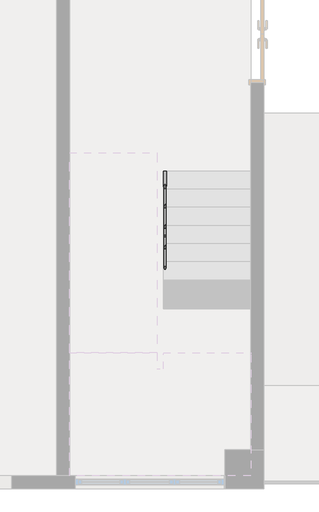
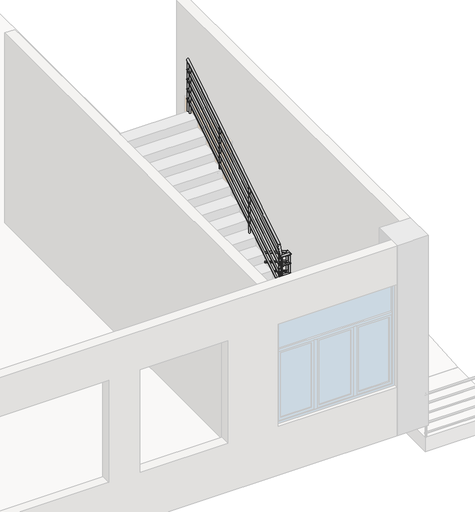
# One storey, part 4 of 5: 1 railing.
"""IFC4 building model written with IfcOpenShell, lengths in millimetres."""

from ifc_helpers import new_model, si_unit, point, frame, frame_2d, origin, place, context, project, spatial, circle_curve, ellipse_curve, trimmed, segment, composite_curve, outline, extrude, element, save
from ifc_brep_helpers import plane_surface, cylinder_surface, advanced_brep

model = new_model("IFC4")

# Units and contexts
model_context = context("Model", 3, world=origin())
ifc_project = project(units=[si_unit("LENGTHUNIT", "METRE", prefix="MILLI")], contexts=[model_context])

# Site, building, storey
site = spatial("IfcSite", under=ifc_project)
building = spatial("IfcBuilding", under=site)
storey = spatial("IfcBuildingStorey", under=building, Name="标高 3", Elevation=3200.0)

# Railing
placement = place(None, origin())
element("IfcRailing", 1, ObjectType="900mm 圆管", at=placement, inside=storey, context=model_context, shape_type="SolidModel", body=[
    advanced_brep(
    [(12373.6324742, -5636.6725016, 4253.6013354), (12413.6324742, -5636.6725016, 4253.6013354), (12373.6324742, -8442.4714181, 6030.0), (12413.6324742, -8442.4714181, 6030.0), (12373.6324742, -8492.8994811, 6030.0), (12413.6324742, -8534.3206936, 6030.0), (12232.6298261, -8487.9755601, 6030.0), (12216.4524444, -8527.4350152, 6030.0)],
    [
        (0, 1, ellipse_curve(frame((12393.6324742, -5636.6725016, 4253.6013354), z_axis=(0.0, 1.0, 0.0), x_axis=(0.0, 0.0, -1.0)), 23.6713919, 20.0)),
        (1, 0, ellipse_curve(frame((12393.6324742, -5636.6725016, 4253.6013354), z_axis=(0.0, 1.0, 0.0), x_axis=(0.0, 0.0, -1.0)), 23.6713919, 20.0)),
        (0, 2),
        (2, 3, ellipse_curve(frame((12393.6324742, -8442.4714181, 6030.0), z_axis=(0.0, 0.9604430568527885, -0.2784764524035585), x_axis=(0.0, -0.2784764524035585, -0.9604430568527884)), 20.8237228, 20.0)),
        (3, 1),
        (3, 2, ellipse_curve(frame((12393.6324742, -8442.4714181, 6030.0), z_axis=(0.0, 0.9604430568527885, -0.2784764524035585), x_axis=(0.0, -0.2784764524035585, -0.9604430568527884)), 20.8237228, 20.0)),
        (2, 4),
        (4, 5, ellipse_curve(frame((12393.6324742, -8513.6100873, 6030.0), z_axis=(0.7193398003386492, 0.6946583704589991, 0.0), x_axis=(-0.694658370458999, 0.7193398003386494, 0.0)), 28.7911308, 20.0)),
        (5, 3),
        (5, 4, ellipse_curve(frame((12393.6324742, -8513.6100873, 6030.0), z_axis=(0.7193398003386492, 0.6946583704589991, 0.0), x_axis=(-0.694658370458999, 0.7193398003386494, 0.0)), 28.7911308, 20.0)),
        (6, 7, ellipse_curve(frame((12224.5411352, -8507.7052877, 6030.0), z_axis=(-0.7020987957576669, 0.28784280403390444, 0.6513092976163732), x_axis=(0.7113439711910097, 0.24195173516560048, 0.659885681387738)), 28.1010702, 20.0)),
        (7, 6, ellipse_curve(frame((12224.5411352, -8507.7052877, 6030.0), z_axis=(-0.7020987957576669, 0.28784280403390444, 0.6513092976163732), x_axis=(0.7113439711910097, 0.24195173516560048, 0.659885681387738)), 28.1010702, 20.0)),
        (4, 6),
        (7, 5),
    ],
    [
        plane_surface(frame((12393.6324742, -5636.6725016, 4277.2727273), z_axis=(0.0, 1.0, 0.0), x_axis=(0.0, 0.0, -1.0))),
        cylinder_surface(frame((12393.6324742, -5647.3709326, 4260.3746927), z_axis=(0.0, 0.8449017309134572, -0.5349215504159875), x_axis=(1.0, 0.0, 0.0)), 20.0),
        cylinder_surface(frame((12393.6324742, -8436.6725016, 6030.0), z_axis=(0.0, 1.0, 0.0), x_axis=(1.0, 0.0, 0.0)), 20.0),
        plane_surface(frame((12242.8324742, -8508.3440353, 6050.0), z_axis=(-0.702098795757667, 0.2878428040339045, 0.6513092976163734), x_axis=(0.7120795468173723, 0.2838083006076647, 0.6421803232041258))),
        cylinder_surface(frame((12393.6324742, -8513.6100873, 6030.0), z_axis=(0.999390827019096, -0.034899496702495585, 0.0), x_axis=(-0.034899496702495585, -0.999390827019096, 0.0)), 20.0),
    ],
    [
        (0, [[1, 2]]),
        (1, [[-1, 3, 4, 5]]),
        (1, [[-2, -5, 6, -3]]),
        (2, [[-4, 7, 8, 9]]),
        (2, [[-6, -9, 10, -7]]),
        (3, [[11, 12]]),
        (4, [[-8, 13, -12, 14]]),
        (4, [[-10, -14, -11, -13]]),
    ],
),
    advanced_brep(
    [(12262.8324742, -8482.6463411, 6060.2026481), (12222.8324742, -8497.4367529, 6023.6199702), (12262.8324742, -8420.5409162, 6213.8145145), (12222.8324742, -8420.5409162, 6213.8145145), (12262.8324742, -5356.6725016, 8153.6013354), (12222.8324742, -5356.6725016, 8153.6013354)],
    [
        (0, 1, ellipse_curve(frame((12242.8324742, -8490.041547, 6041.9113091), z_axis=(0.7020987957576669, -0.28784280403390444, -0.6513092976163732), x_axis=(-0.7113439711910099, -0.24195173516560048, -0.6598856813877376)), 28.1010702, 20.0)),
        (1, 0, ellipse_curve(frame((12242.8324742, -8490.041547, 6041.9113091), z_axis=(0.7020987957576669, -0.28784280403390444, -0.6513092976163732), x_axis=(-0.7113439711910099, -0.24195173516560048, -0.6598856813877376)), 28.1010702, 20.0)),
        (0, 2),
        (2, 3, ellipse_curve(frame((12242.8324742, -8420.5409162, 6213.8145145), z_axis=(0.0, -0.6406119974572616, -0.7678647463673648), x_axis=(0.0, 0.767864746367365, -0.6406119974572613)), 21.0083684, 20.0)),
        (3, 1),
        (3, 2, ellipse_curve(frame((12242.8324742, -8420.5409162, 6213.8145145), z_axis=(0.0, -0.6406119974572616, -0.7678647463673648), x_axis=(0.0, 0.767864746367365, -0.6406119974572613)), 21.0083684, 20.0)),
        (4, 5, ellipse_curve(frame((12242.8324742, -5356.6725016, 8153.6013354), z_axis=(0.0, 1.0, 0.0), x_axis=(0.0, 0.0, -1.0)), 23.6713919, 20.0)),
        (5, 4, ellipse_curve(frame((12242.8324742, -5356.6725016, 8153.6013354), z_axis=(0.0, 1.0, 0.0), x_axis=(0.0, 0.0, -1.0)), 23.6713919, 20.0)),
        (2, 4),
        (5, 3),
    ],
    [
        plane_surface(frame((12242.8324742, -8508.3440353, 6050.0), z_axis=(0.702098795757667, -0.2878428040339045, -0.6513092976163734), x_axis=(0.7120795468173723, 0.2838083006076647, 0.6421803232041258))),
        cylinder_surface(frame((12242.8324742, -8489.802128, 6042.5034891), z_axis=(0.0, -0.3748255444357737, -0.9270953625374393), x_axis=(-1.0, 0.0, 0.0)), 20.0),
        plane_surface(frame((12242.8324742, -5356.6725016, 8177.2727273), z_axis=(0.0, 1.0, 0.0), x_axis=(0.0, 0.0, 1.0))),
        cylinder_surface(frame((12242.8324742, -8425.9740706, 6210.3746927), z_axis=(0.0, -0.8449017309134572, -0.5349215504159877), x_axis=(-1.0, 0.0, 0.0)), 20.0),
    ],
    [
        (0, [[1, 2]]),
        (1, [[-1, 3, 4, 5]]),
        (1, [[-2, -5, 6, -3]]),
        (2, [[7, 8]]),
        (3, [[-4, 9, -8, 10]]),
        (3, [[-6, -10, -7, -9]]),
    ],
),
    advanced_brep(
    [(12408.6324742, -5636.6725016, 4059.5191833), (12378.6324742, -5636.6725016, 4059.5191833), (12408.6324742, -8436.6725016, 5832.2464561), (12378.6324742, -8436.6725016, 5832.2464561)],
    [
        (0, 1, ellipse_curve(frame((12393.6324742, -5636.6725016, 4059.5191833), z_axis=(0.0, 1.0, 0.0), x_axis=(0.0, 0.0, -1.0)), 17.7535439, 15.0)),
        (1, 0, ellipse_curve(frame((12393.6324742, -5636.6725016, 4059.5191833), z_axis=(0.0, 1.0, 0.0), x_axis=(0.0, 0.0, -1.0)), 17.7535439, 15.0)),
        (2, 3, ellipse_curve(frame((12393.6324742, -8436.6725016, 5832.2464561), z_axis=(0.0, -1.0, 0.0), x_axis=(0.0, 0.0, -1.0)), 17.7535439, 15.0)),
        (3, 2, ellipse_curve(frame((12393.6324742, -8436.6725016, 5832.2464561), z_axis=(0.0, -1.0, 0.0), x_axis=(0.0, 0.0, -1.0)), 17.7535439, 15.0)),
        (0, 2),
        (3, 1),
    ],
    [
        plane_surface(frame((12393.6324742, -5636.6725016, 4077.2727273), z_axis=(0.0, 1.0, 0.0), x_axis=(0.0, 0.0, -1.0))),
        plane_surface(frame((12393.6324742, -8436.6725016, 5850.0), z_axis=(0.0, -1.0, 0.0), x_axis=(0.0, 0.0, -1.0))),
        cylinder_surface(frame((12393.6324742, -5644.6963249, 4064.5992013), z_axis=(0.0, 0.8449017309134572, -0.5349215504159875), x_axis=(-1.0, 0.0, 0.0)), 15.0),
    ],
    [
        (0, [[1, 2]]),
        (1, [[3, 4]]),
        (2, [[-1, 5, -4, 6]]),
        (2, [[-2, -6, -3, -5]]),
    ],
),
    advanced_brep(
    [(12408.6324742, -8436.6725016, 5835.0), (12378.6324742, -8436.6725016, 5835.0), (12408.6324742, -8499.1247557, 5835.0), (12378.6324742, -8498.0771326, 5835.0)],
    [
        (0, 1, circle_curve(frame((12393.6324742, -8436.6725016, 5835.0), z_axis=(0.0, 1.0, 0.0), x_axis=(-1.0, 0.0, 0.0)), 15.0)),
        (1, 0, circle_curve(frame((12393.6324742, -8436.6725016, 5835.0), z_axis=(0.0, 1.0, 0.0), x_axis=(-1.0, 0.0, 0.0)), 15.0)),
        (2, 3, ellipse_curve(frame((12393.6324742, -8498.6009442, 5835.0), z_axis=(-0.034899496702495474, -0.999390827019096, 0.0), x_axis=(-0.999390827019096, 0.03489949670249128, 0.0)), 15.0091432, 15.0)),
        (3, 2, ellipse_curve(frame((12393.6324742, -8498.6009442, 5835.0), z_axis=(-0.034899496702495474, -0.999390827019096, 0.0), x_axis=(-0.999390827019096, 0.03489949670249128, 0.0)), 15.0091432, 15.0)),
        (0, 2),
        (3, 1),
    ],
    [
        plane_surface(frame((12393.6324742, -8436.6725016, 5850.0), z_axis=(0.0, 1.0, 0.0), x_axis=(0.0, 0.0, -1.0))),
        plane_surface(frame((12393.6324742, -8498.6009442, 5850.0), z_axis=(-0.034899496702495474, -0.999390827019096, 0.0), x_axis=(0.999390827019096, -0.034899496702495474, 0.0))),
        cylinder_surface(frame((12393.6324742, -8436.6725016, 5835.0), z_axis=(0.0, 1.0, 0.0), x_axis=(-1.0, 0.0, 0.0)), 15.0),
    ],
    [
        (0, [[1, 2]]),
        (1, [[3, 4]]),
        (2, [[-1, 5, -4, 6]]),
        (2, [[-2, -6, -3, -5]]),
    ],
),
    advanced_brep(
    [(12408.6324742, -8529.143042, 5835.0), (12408.6324742, -8499.1247557, 5835.0), (12257.8324742, -8523.87699, 5835.0), (12257.8324742, -8493.8587037, 5835.0)],
    [
        (0, 1, ellipse_curve(frame((12408.6324742, -8514.1338989, 5835.0), z_axis=(1.0, 0.0, 0.0), x_axis=(0.0, -1.0, 0.0)), 15.0091432, 15.0)),
        (1, 0, ellipse_curve(frame((12408.6324742, -8514.1338989, 5835.0), z_axis=(1.0, 0.0, 0.0), x_axis=(0.0, -1.0, 0.0)), 15.0091432, 15.0)),
        (2, 3, ellipse_curve(frame((12257.8324742, -8508.8678468, 5835.0), z_axis=(-1.0, 0.0, 0.0), x_axis=(0.0, -1.0, 0.0)), 15.0091432, 15.0)),
        (3, 2, ellipse_curve(frame((12257.8324742, -8508.8678468, 5835.0), z_axis=(-1.0, 0.0, 0.0), x_axis=(0.0, -1.0, 0.0)), 15.0091432, 15.0)),
        (0, 2),
        (3, 1),
    ],
    [
        plane_surface(frame((12408.6324742, -8514.1338989, 5850.0), z_axis=(1.0, 0.0, 0.0), x_axis=(0.0, -1.0, 0.0))),
        plane_surface(frame((12257.8324742, -8508.8678468, 5850.0), z_axis=(-1.0, 0.0, 0.0), x_axis=(0.0, -1.0, 0.0))),
        cylinder_surface(frame((12408.6324742, -8514.1338989, 5835.0), z_axis=(0.999390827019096, -0.034899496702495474, 0.0), x_axis=(0.034899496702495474, 0.999390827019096, 0.0)), 15.0),
    ],
    [
        (0, [[1, 2]]),
        (1, [[3, 4]]),
        (2, [[-1, 5, -4, 6]]),
        (2, [[-2, -6, -3, -5]]),
    ],
),
    advanced_brep(
    [(12227.8324742, -8522.8293669, 5835.0), (12257.8324742, -8523.87699, 5835.0), (12227.8324742, -8498.2289843, 5835.0), (12257.8324742, -8498.2289843, 5835.0), (12227.8324742, -8436.6725016, 5987.25411), (12257.8324742, -8436.6725016, 5987.25411)],
    [
        (0, 1, ellipse_curve(frame((12242.8324742, -8523.3531785, 5835.0), z_axis=(-0.034899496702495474, -0.999390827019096, 0.0), x_axis=(0.999390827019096, -0.03489949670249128, 0.0)), 15.0091432, 15.0)),
        (1, 0, ellipse_curve(frame((12242.8324742, -8523.3531785, 5835.0), z_axis=(-0.034899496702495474, -0.999390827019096, 0.0), x_axis=(0.999390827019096, -0.03489949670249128, 0.0)), 15.0091432, 15.0)),
        (0, 2),
        (2, 3, ellipse_curve(frame((12242.8324742, -8498.2289843, 5835.0), z_axis=(0.0, -0.8291035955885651, -0.5590950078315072), x_axis=(0.0, -0.5590950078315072, 0.8291035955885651)), 18.0918284, 15.0)),
        (3, 1),
        (3, 2, ellipse_curve(frame((12242.8324742, -8498.2289843, 5835.0), z_axis=(0.0, -0.8291035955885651, -0.5590950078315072), x_axis=(0.0, -0.5590950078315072, 0.8291035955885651)), 18.0918284, 15.0)),
        (4, 5, ellipse_curve(frame((12242.8324742, -8436.6725016, 5987.25411), z_axis=(0.0, 1.0, 0.0), x_axis=(0.0, 0.0, -1.0)), 40.0186173, 15.0)),
        (5, 4, ellipse_curve(frame((12242.8324742, -8436.6725016, 5987.25411), z_axis=(0.0, 1.0, 0.0), x_axis=(0.0, 0.0, -1.0)), 40.0186173, 15.0)),
        (2, 4),
        (5, 3),
    ],
    [
        plane_surface(frame((12242.8324742, -8523.3531785, 5850.0), z_axis=(-0.034899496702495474, -0.999390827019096, 0.0), x_axis=(0.999390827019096, -0.034899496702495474, 0.0))),
        cylinder_surface(frame((12242.8324742, -8523.3531785, 5835.0), z_axis=(0.0, -1.0, 0.0), x_axis=(1.0, 0.0, 0.0)), 15.0),
        plane_surface(frame((12242.8324742, -8436.6725016, 6027.2727273), z_axis=(0.0, 1.0, 0.0), x_axis=(0.0, 0.0, 1.0))),
        cylinder_surface(frame((12242.8324742, -8494.4376049, 5844.3776168), z_axis=(0.0, -0.37482554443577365, -0.9270953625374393), x_axis=(1.0, 0.0, 0.0)), 15.0),
    ],
    [
        (0, [[1, 2]]),
        (1, [[-1, 3, 4, 5]]),
        (1, [[-2, -5, 6, -3]]),
        (2, [[7, 8]]),
        (3, [[-4, 9, -8, 10]]),
        (3, [[-6, -10, -7, -9]]),
    ],
),
    advanced_brep(
    [(12227.8324742, -8436.6725016, 6009.5191833), (12257.8324742, -8436.6725016, 6009.5191833), (12227.8324742, -5356.6725016, 7959.5191833), (12257.8324742, -5356.6725016, 7959.5191833)],
    [
        (0, 1, ellipse_curve(frame((12242.8324742, -8436.6725016, 6009.5191833), z_axis=(0.0, -1.0, 0.0), x_axis=(0.0, 0.0, -1.0)), 17.7535439, 15.0)),
        (1, 0, ellipse_curve(frame((12242.8324742, -8436.6725016, 6009.5191833), z_axis=(0.0, -1.0, 0.0), x_axis=(0.0, 0.0, -1.0)), 17.7535439, 15.0)),
        (2, 3, ellipse_curve(frame((12242.8324742, -5356.6725016, 7959.5191833), z_axis=(0.0, 1.0, 0.0), x_axis=(0.0, 0.0, -1.0)), 17.7535439, 15.0)),
        (3, 2, ellipse_curve(frame((12242.8324742, -5356.6725016, 7959.5191833), z_axis=(0.0, 1.0, 0.0), x_axis=(0.0, 0.0, -1.0)), 17.7535439, 15.0)),
        (0, 2),
        (3, 1),
    ],
    [
        plane_surface(frame((12242.8324742, -8436.6725016, 6027.2727273), z_axis=(0.0, -1.0, 0.0), x_axis=(0.0, 0.0, 1.0))),
        plane_surface(frame((12242.8324742, -5356.6725016, 7977.2727273), z_axis=(0.0, 1.0, 0.0), x_axis=(0.0, 0.0, 1.0))),
        cylinder_surface(frame((12242.8324742, -8428.6486783, 6014.5992013), z_axis=(0.0, -0.8449017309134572, -0.5349215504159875), x_axis=(1.0, 0.0, 0.0)), 15.0),
    ],
    [
        (0, [[1, 2]]),
        (1, [[3, 4]]),
        (2, [[-1, 5, -4, 6]]),
        (2, [[-2, -6, -3, -5]]),
    ],
),
    advanced_brep(
    [(12408.6324742, -5636.6725016, 3859.5191833), (12378.6324742, -5636.6725016, 3859.5191833), (12408.6324742, -8436.6725016, 5632.2464561), (12378.6324742, -8436.6725016, 5632.2464561)],
    [
        (0, 1, ellipse_curve(frame((12393.6324742, -5636.6725016, 3859.5191833), z_axis=(0.0, 1.0, 0.0), x_axis=(0.0, 0.0, -1.0)), 17.7535439, 15.0)),
        (1, 0, ellipse_curve(frame((12393.6324742, -5636.6725016, 3859.5191833), z_axis=(0.0, 1.0, 0.0), x_axis=(0.0, 0.0, -1.0)), 17.7535439, 15.0)),
        (2, 3, ellipse_curve(frame((12393.6324742, -8436.6725016, 5632.2464561), z_axis=(0.0, -1.0, 0.0), x_axis=(0.0, 0.0, -1.0)), 17.7535439, 15.0)),
        (3, 2, ellipse_curve(frame((12393.6324742, -8436.6725016, 5632.2464561), z_axis=(0.0, -1.0, 0.0), x_axis=(0.0, 0.0, -1.0)), 17.7535439, 15.0)),
        (0, 2),
        (3, 1),
    ],
    [
        plane_surface(frame((12393.6324742, -5636.6725016, 3877.2727273), z_axis=(0.0, 1.0, 0.0), x_axis=(0.0, 0.0, -1.0))),
        plane_surface(frame((12393.6324742, -8436.6725016, 5650.0), z_axis=(0.0, -1.0, 0.0), x_axis=(0.0, 0.0, -1.0))),
        cylinder_surface(frame((12393.6324742, -5644.6963249, 3864.5992013), z_axis=(0.0, 0.8449017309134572, -0.5349215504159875), x_axis=(-1.0, 0.0, 0.0)), 15.0),
    ],
    [
        (0, [[1, 2]]),
        (1, [[3, 4]]),
        (2, [[-1, 5, -4, 6]]),
        (2, [[-2, -6, -3, -5]]),
    ],
),
    advanced_brep(
    [(12408.6324742, -8436.6725016, 5635.0), (12378.6324742, -8436.6725016, 5635.0), (12408.6324742, -8499.1247557, 5635.0), (12378.6324742, -8498.0771326, 5635.0)],
    [
        (0, 1, circle_curve(frame((12393.6324742, -8436.6725016, 5635.0), z_axis=(0.0, 1.0, 0.0), x_axis=(-1.0, 0.0, 0.0)), 15.0)),
        (1, 0, circle_curve(frame((12393.6324742, -8436.6725016, 5635.0), z_axis=(0.0, 1.0, 0.0), x_axis=(-1.0, 0.0, 0.0)), 15.0)),
        (2, 3, ellipse_curve(frame((12393.6324742, -8498.6009442, 5635.0), z_axis=(-0.034899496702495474, -0.999390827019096, 0.0), x_axis=(-0.999390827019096, 0.03489949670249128, 0.0)), 15.0091432, 15.0)),
        (3, 2, ellipse_curve(frame((12393.6324742, -8498.6009442, 5635.0), z_axis=(-0.034899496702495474, -0.999390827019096, 0.0), x_axis=(-0.999390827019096, 0.03489949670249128, 0.0)), 15.0091432, 15.0)),
        (0, 2),
        (3, 1),
    ],
    [
        plane_surface(frame((12393.6324742, -8436.6725016, 5650.0), z_axis=(0.0, 1.0, 0.0), x_axis=(0.0, 0.0, -1.0))),
        plane_surface(frame((12393.6324742, -8498.6009442, 5650.0), z_axis=(-0.034899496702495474, -0.999390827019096, 0.0), x_axis=(0.999390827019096, -0.034899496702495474, 0.0))),
        cylinder_surface(frame((12393.6324742, -8436.6725016, 5635.0), z_axis=(0.0, 1.0, 0.0), x_axis=(-1.0, 0.0, 0.0)), 15.0),
    ],
    [
        (0, [[1, 2]]),
        (1, [[3, 4]]),
        (2, [[-1, 5, -4, 6]]),
        (2, [[-2, -6, -3, -5]]),
    ],
),
    advanced_brep(
    [(12408.6324742, -8529.143042, 5635.0), (12408.6324742, -8499.1247557, 5635.0), (12257.8324742, -8523.87699, 5635.0), (12257.8324742, -8493.8587037, 5635.0)],
    [
        (0, 1, ellipse_curve(frame((12408.6324742, -8514.1338989, 5635.0), z_axis=(1.0, 0.0, 0.0), x_axis=(0.0, -1.0, 0.0)), 15.0091432, 15.0)),
        (1, 0, ellipse_curve(frame((12408.6324742, -8514.1338989, 5635.0), z_axis=(1.0, 0.0, 0.0), x_axis=(0.0, -1.0, 0.0)), 15.0091432, 15.0)),
        (2, 3, ellipse_curve(frame((12257.8324742, -8508.8678468, 5635.0), z_axis=(-1.0, 0.0, 0.0), x_axis=(0.0, -1.0, 0.0)), 15.0091432, 15.0)),
        (3, 2, ellipse_curve(frame((12257.8324742, -8508.8678468, 5635.0), z_axis=(-1.0, 0.0, 0.0), x_axis=(0.0, -1.0, 0.0)), 15.0091432, 15.0)),
        (0, 2),
        (3, 1),
    ],
    [
        plane_surface(frame((12408.6324742, -8514.1338989, 5650.0), z_axis=(1.0, 0.0, 0.0), x_axis=(0.0, -1.0, 0.0))),
        plane_surface(frame((12257.8324742, -8508.8678468, 5650.0), z_axis=(-1.0, 0.0, 0.0), x_axis=(0.0, -1.0, 0.0))),
        cylinder_surface(frame((12408.6324742, -8514.1338989, 5635.0), z_axis=(0.999390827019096, -0.034899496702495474, 0.0), x_axis=(0.034899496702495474, 0.999390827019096, 0.0)), 15.0),
    ],
    [
        (0, [[1, 2]]),
        (1, [[3, 4]]),
        (2, [[-1, 5, -4, 6]]),
        (2, [[-2, -6, -3, -5]]),
    ],
),
    advanced_brep(
    [(12227.8324742, -8522.8293669, 5635.0), (12257.8324742, -8523.87699, 5635.0), (12227.8324742, -8498.2289843, 5635.0), (12257.8324742, -8498.2289843, 5635.0), (12227.8324742, -8436.6725016, 5787.25411), (12257.8324742, -8436.6725016, 5787.25411)],
    [
        (0, 1, ellipse_curve(frame((12242.8324742, -8523.3531785, 5635.0), z_axis=(-0.034899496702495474, -0.999390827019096, 0.0), x_axis=(0.999390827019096, -0.03489949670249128, 0.0)), 15.0091432, 15.0)),
        (1, 0, ellipse_curve(frame((12242.8324742, -8523.3531785, 5635.0), z_axis=(-0.034899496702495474, -0.999390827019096, 0.0), x_axis=(0.999390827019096, -0.03489949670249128, 0.0)), 15.0091432, 15.0)),
        (0, 2),
        (2, 3, ellipse_curve(frame((12242.8324742, -8498.2289843, 5635.0), z_axis=(0.0, -0.8291035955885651, -0.5590950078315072), x_axis=(0.0, -0.5590950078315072, 0.8291035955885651)), 18.0918284, 15.0)),
        (3, 1),
        (3, 2, ellipse_curve(frame((12242.8324742, -8498.2289843, 5635.0), z_axis=(0.0, -0.8291035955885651, -0.5590950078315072), x_axis=(0.0, -0.5590950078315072, 0.8291035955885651)), 18.0918284, 15.0)),
        (4, 5, ellipse_curve(frame((12242.8324742, -8436.6725016, 5787.25411), z_axis=(0.0, 1.0, 0.0), x_axis=(0.0, 0.0, -1.0)), 40.0186173, 15.0)),
        (5, 4, ellipse_curve(frame((12242.8324742, -8436.6725016, 5787.25411), z_axis=(0.0, 1.0, 0.0), x_axis=(0.0, 0.0, -1.0)), 40.0186173, 15.0)),
        (2, 4),
        (5, 3),
    ],
    [
        plane_surface(frame((12242.8324742, -8523.3531785, 5650.0), z_axis=(-0.034899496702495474, -0.999390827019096, 0.0), x_axis=(0.999390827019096, -0.034899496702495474, 0.0))),
        cylinder_surface(frame((12242.8324742, -8523.3531785, 5635.0), z_axis=(0.0, -1.0, 0.0), x_axis=(1.0, 0.0, 0.0)), 15.0),
        plane_surface(frame((12242.8324742, -8436.6725016, 5827.2727273), z_axis=(0.0, 1.0, 0.0), x_axis=(0.0, 0.0, 1.0))),
        cylinder_surface(frame((12242.8324742, -8494.4376049, 5644.3776168), z_axis=(0.0, -0.37482554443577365, -0.9270953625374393), x_axis=(1.0, 0.0, 0.0)), 15.0),
    ],
    [
        (0, [[1, 2]]),
        (1, [[-1, 3, 4, 5]]),
        (1, [[-2, -5, 6, -3]]),
        (2, [[7, 8]]),
        (3, [[-4, 9, -8, 10]]),
        (3, [[-6, -10, -7, -9]]),
    ],
),
    advanced_brep(
    [(12227.8324742, -8436.6725016, 5809.5191833), (12257.8324742, -8436.6725016, 5809.5191833), (12227.8324742, -5356.6725016, 7759.5191833), (12257.8324742, -5356.6725016, 7759.5191833)],
    [
        (0, 1, ellipse_curve(frame((12242.8324742, -8436.6725016, 5809.5191833), z_axis=(0.0, -1.0, 0.0), x_axis=(0.0, 0.0, -1.0)), 17.7535439, 15.0)),
        (1, 0, ellipse_curve(frame((12242.8324742, -8436.6725016, 5809.5191833), z_axis=(0.0, -1.0, 0.0), x_axis=(0.0, 0.0, -1.0)), 17.7535439, 15.0)),
        (2, 3, ellipse_curve(frame((12242.8324742, -5356.6725016, 7759.5191833), z_axis=(0.0, 1.0, 0.0), x_axis=(0.0, 0.0, -1.0)), 17.7535439, 15.0)),
        (3, 2, ellipse_curve(frame((12242.8324742, -5356.6725016, 7759.5191833), z_axis=(0.0, 1.0, 0.0), x_axis=(0.0, 0.0, -1.0)), 17.7535439, 15.0)),
        (0, 2),
        (3, 1),
    ],
    [
        plane_surface(frame((12242.8324742, -8436.6725016, 5827.2727273), z_axis=(0.0, -1.0, 0.0), x_axis=(0.0, 0.0, 1.0))),
        plane_surface(frame((12242.8324742, -5356.6725016, 7777.2727273), z_axis=(0.0, 1.0, 0.0), x_axis=(0.0, 0.0, 1.0))),
        cylinder_surface(frame((12242.8324742, -8428.6486783, 5814.5992013), z_axis=(0.0, -0.8449017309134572, -0.5349215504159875), x_axis=(1.0, 0.0, 0.0)), 15.0),
    ],
    [
        (0, [[1, 2]]),
        (1, [[3, 4]]),
        (2, [[-1, 5, -4, 6]]),
        (2, [[-2, -6, -3, -5]]),
    ],
),
    advanced_brep(
    [(12408.6324742, -5636.6725016, 3659.5191833), (12378.6324742, -5636.6725016, 3659.5191833), (12408.6324742, -8436.6725016, 5432.2464561), (12378.6324742, -8436.6725016, 5432.2464561)],
    [
        (0, 1, ellipse_curve(frame((12393.6324742, -5636.6725016, 3659.5191833), z_axis=(0.0, 1.0, 0.0), x_axis=(0.0, 0.0, -1.0)), 17.7535439, 15.0)),
        (1, 0, ellipse_curve(frame((12393.6324742, -5636.6725016, 3659.5191833), z_axis=(0.0, 1.0, 0.0), x_axis=(0.0, 0.0, -1.0)), 17.7535439, 15.0)),
        (2, 3, ellipse_curve(frame((12393.6324742, -8436.6725016, 5432.2464561), z_axis=(0.0, -1.0, 0.0), x_axis=(0.0, 0.0, -1.0)), 17.7535439, 15.0)),
        (3, 2, ellipse_curve(frame((12393.6324742, -8436.6725016, 5432.2464561), z_axis=(0.0, -1.0, 0.0), x_axis=(0.0, 0.0, -1.0)), 17.7535439, 15.0)),
        (0, 2),
        (3, 1),
    ],
    [
        plane_surface(frame((12393.6324742, -5636.6725016, 3677.2727273), z_axis=(0.0, 1.0, 0.0), x_axis=(0.0, 0.0, -1.0))),
        plane_surface(frame((12393.6324742, -8436.6725016, 5450.0), z_axis=(0.0, -1.0, 0.0), x_axis=(0.0, 0.0, -1.0))),
        cylinder_surface(frame((12393.6324742, -5644.6963249, 3664.5992013), z_axis=(0.0, 0.8449017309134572, -0.5349215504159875), x_axis=(-1.0, 0.0, 0.0)), 15.0),
    ],
    [
        (0, [[1, 2]]),
        (1, [[3, 4]]),
        (2, [[-1, 5, -4, 6]]),
        (2, [[-2, -6, -3, -5]]),
    ],
),
    advanced_brep(
    [(12408.6324742, -8436.6725016, 5435.0), (12378.6324742, -8436.6725016, 5435.0), (12408.6324742, -8499.1247557, 5435.0), (12378.6324742, -8498.0771326, 5435.0)],
    [
        (0, 1, circle_curve(frame((12393.6324742, -8436.6725016, 5435.0), z_axis=(0.0, 1.0, 0.0), x_axis=(-1.0, 0.0, 0.0)), 15.0)),
        (1, 0, circle_curve(frame((12393.6324742, -8436.6725016, 5435.0), z_axis=(0.0, 1.0, 0.0), x_axis=(-1.0, 0.0, 0.0)), 15.0)),
        (2, 3, ellipse_curve(frame((12393.6324742, -8498.6009442, 5435.0), z_axis=(-0.034899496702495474, -0.999390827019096, 0.0), x_axis=(-0.999390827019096, 0.03489949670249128, 0.0)), 15.0091432, 15.0)),
        (3, 2, ellipse_curve(frame((12393.6324742, -8498.6009442, 5435.0), z_axis=(-0.034899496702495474, -0.999390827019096, 0.0), x_axis=(-0.999390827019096, 0.03489949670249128, 0.0)), 15.0091432, 15.0)),
        (0, 2),
        (3, 1),
    ],
    [
        plane_surface(frame((12393.6324742, -8436.6725016, 5450.0), z_axis=(0.0, 1.0, 0.0), x_axis=(0.0, 0.0, -1.0))),
        plane_surface(frame((12393.6324742, -8498.6009442, 5450.0), z_axis=(-0.034899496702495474, -0.999390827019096, 0.0), x_axis=(0.999390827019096, -0.034899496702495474, 0.0))),
        cylinder_surface(frame((12393.6324742, -8436.6725016, 5435.0), z_axis=(0.0, 1.0, 0.0), x_axis=(-1.0, 0.0, 0.0)), 15.0),
    ],
    [
        (0, [[1, 2]]),
        (1, [[3, 4]]),
        (2, [[-1, 5, -4, 6]]),
        (2, [[-2, -6, -3, -5]]),
    ],
),
    advanced_brep(
    [(12408.6324742, -8529.143042, 5435.0), (12408.6324742, -8499.1247557, 5435.0), (12257.8324742, -8523.87699, 5435.0), (12257.8324742, -8493.8587037, 5435.0)],
    [
        (0, 1, ellipse_curve(frame((12408.6324742, -8514.1338989, 5435.0), z_axis=(1.0, 0.0, 0.0), x_axis=(0.0, -1.0, 0.0)), 15.0091432, 15.0)),
        (1, 0, ellipse_curve(frame((12408.6324742, -8514.1338989, 5435.0), z_axis=(1.0, 0.0, 0.0), x_axis=(0.0, -1.0, 0.0)), 15.0091432, 15.0)),
        (2, 3, ellipse_curve(frame((12257.8324742, -8508.8678468, 5435.0), z_axis=(-1.0, 0.0, 0.0), x_axis=(0.0, -1.0, 0.0)), 15.0091432, 15.0)),
        (3, 2, ellipse_curve(frame((12257.8324742, -8508.8678468, 5435.0), z_axis=(-1.0, 0.0, 0.0), x_axis=(0.0, -1.0, 0.0)), 15.0091432, 15.0)),
        (0, 2),
        (3, 1),
    ],
    [
        plane_surface(frame((12408.6324742, -8514.1338989, 5450.0), z_axis=(1.0, 0.0, 0.0), x_axis=(0.0, -1.0, 0.0))),
        plane_surface(frame((12257.8324742, -8508.8678468, 5450.0), z_axis=(-1.0, 0.0, 0.0), x_axis=(0.0, -1.0, 0.0))),
        cylinder_surface(frame((12408.6324742, -8514.1338989, 5435.0), z_axis=(0.999390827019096, -0.034899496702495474, 0.0), x_axis=(0.034899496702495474, 0.999390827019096, 0.0)), 15.0),
    ],
    [
        (0, [[1, 2]]),
        (1, [[3, 4]]),
        (2, [[-1, 5, -4, 6]]),
        (2, [[-2, -6, -3, -5]]),
    ],
),
    advanced_brep(
    [(12227.8324742, -8522.8293669, 5435.0), (12257.8324742, -8523.87699, 5435.0), (12227.8324742, -8498.2289843, 5435.0), (12257.8324742, -8498.2289843, 5435.0), (12227.8324742, -8436.6725016, 5587.25411), (12257.8324742, -8436.6725016, 5587.25411)],
    [
        (0, 1, ellipse_curve(frame((12242.8324742, -8523.3531785, 5435.0), z_axis=(-0.034899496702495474, -0.999390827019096, 0.0), x_axis=(0.999390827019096, -0.03489949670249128, 0.0)), 15.0091432, 15.0)),
        (1, 0, ellipse_curve(frame((12242.8324742, -8523.3531785, 5435.0), z_axis=(-0.034899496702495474, -0.999390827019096, 0.0), x_axis=(0.999390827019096, -0.03489949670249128, 0.0)), 15.0091432, 15.0)),
        (0, 2),
        (2, 3, ellipse_curve(frame((12242.8324742, -8498.2289843, 5435.0), z_axis=(0.0, -0.8291035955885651, -0.5590950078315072), x_axis=(0.0, -0.5590950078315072, 0.8291035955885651)), 18.0918284, 15.0)),
        (3, 1),
        (3, 2, ellipse_curve(frame((12242.8324742, -8498.2289843, 5435.0), z_axis=(0.0, -0.8291035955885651, -0.5590950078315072), x_axis=(0.0, -0.5590950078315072, 0.8291035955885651)), 18.0918284, 15.0)),
        (4, 5, ellipse_curve(frame((12242.8324742, -8436.6725016, 5587.25411), z_axis=(0.0, 1.0, 0.0), x_axis=(0.0, 0.0, -1.0)), 40.0186173, 15.0)),
        (5, 4, ellipse_curve(frame((12242.8324742, -8436.6725016, 5587.25411), z_axis=(0.0, 1.0, 0.0), x_axis=(0.0, 0.0, -1.0)), 40.0186173, 15.0)),
        (2, 4),
        (5, 3),
    ],
    [
        plane_surface(frame((12242.8324742, -8523.3531785, 5450.0), z_axis=(-0.034899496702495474, -0.999390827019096, 0.0), x_axis=(0.999390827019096, -0.034899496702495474, 0.0))),
        cylinder_surface(frame((12242.8324742, -8523.3531785, 5435.0), z_axis=(0.0, -1.0, 0.0), x_axis=(1.0, 0.0, 0.0)), 15.0),
        plane_surface(frame((12242.8324742, -8436.6725016, 5627.2727273), z_axis=(0.0, 1.0, 0.0), x_axis=(0.0, 0.0, 1.0))),
        cylinder_surface(frame((12242.8324742, -8494.4376049, 5444.3776168), z_axis=(0.0, -0.37482554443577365, -0.9270953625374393), x_axis=(1.0, 0.0, 0.0)), 15.0),
    ],
    [
        (0, [[1, 2]]),
        (1, [[-1, 3, 4, 5]]),
        (1, [[-2, -5, 6, -3]]),
        (2, [[7, 8]]),
        (3, [[-4, 9, -8, 10]]),
        (3, [[-6, -10, -7, -9]]),
    ],
),
    advanced_brep(
    [(12227.8324742, -8436.6725016, 5609.5191833), (12257.8324742, -8436.6725016, 5609.5191833), (12227.8324742, -5356.6725016, 7559.5191833), (12257.8324742, -5356.6725016, 7559.5191833)],
    [
        (0, 1, ellipse_curve(frame((12242.8324742, -8436.6725016, 5609.5191833), z_axis=(0.0, -1.0, 0.0), x_axis=(0.0, 0.0, -1.0)), 17.7535439, 15.0)),
        (1, 0, ellipse_curve(frame((12242.8324742, -8436.6725016, 5609.5191833), z_axis=(0.0, -1.0, 0.0), x_axis=(0.0, 0.0, -1.0)), 17.7535439, 15.0)),
        (2, 3, ellipse_curve(frame((12242.8324742, -5356.6725016, 7559.5191833), z_axis=(0.0, 1.0, 0.0), x_axis=(0.0, 0.0, -1.0)), 17.7535439, 15.0)),
        (3, 2, ellipse_curve(frame((12242.8324742, -5356.6725016, 7559.5191833), z_axis=(0.0, 1.0, 0.0), x_axis=(0.0, 0.0, -1.0)), 17.7535439, 15.0)),
        (0, 2),
        (3, 1),
    ],
    [
        plane_surface(frame((12242.8324742, -8436.6725016, 5627.2727273), z_axis=(0.0, -1.0, 0.0), x_axis=(0.0, 0.0, 1.0))),
        plane_surface(frame((12242.8324742, -5356.6725016, 7577.2727273), z_axis=(0.0, 1.0, 0.0), x_axis=(0.0, 0.0, 1.0))),
        cylinder_surface(frame((12242.8324742, -8428.6486783, 5614.5992013), z_axis=(0.0, -0.8449017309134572, -0.5349215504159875), x_axis=(1.0, 0.0, 0.0)), 15.0),
    ],
    [
        (0, [[1, 2]]),
        (1, [[3, 4]]),
        (2, [[-1, 5, -4, 6]]),
        (2, [[-2, -6, -3, -5]]),
    ],
),
    advanced_brep(
    [(12408.6324742, -5636.6725016, 3459.5191833), (12378.6324742, -5636.6725016, 3459.5191833), (12408.6324742, -8436.6725016, 5232.2464561), (12378.6324742, -8436.6725016, 5232.2464561)],
    [
        (0, 1, ellipse_curve(frame((12393.6324742, -5636.6725016, 3459.5191833), z_axis=(0.0, 1.0, 0.0), x_axis=(0.0, 0.0, -1.0)), 17.7535439, 15.0)),
        (1, 0, ellipse_curve(frame((12393.6324742, -5636.6725016, 3459.5191833), z_axis=(0.0, 1.0, 0.0), x_axis=(0.0, 0.0, -1.0)), 17.7535439, 15.0)),
        (2, 3, ellipse_curve(frame((12393.6324742, -8436.6725016, 5232.2464561), z_axis=(0.0, -1.0, 0.0), x_axis=(0.0, 0.0, -1.0)), 17.7535439, 15.0)),
        (3, 2, ellipse_curve(frame((12393.6324742, -8436.6725016, 5232.2464561), z_axis=(0.0, -1.0, 0.0), x_axis=(0.0, 0.0, -1.0)), 17.7535439, 15.0)),
        (0, 2),
        (3, 1),
    ],
    [
        plane_surface(frame((12393.6324742, -5636.6725016, 3477.2727273), z_axis=(0.0, 1.0, 0.0), x_axis=(0.0, 0.0, -1.0))),
        plane_surface(frame((12393.6324742, -8436.6725016, 5250.0), z_axis=(0.0, -1.0, 0.0), x_axis=(0.0, 0.0, -1.0))),
        cylinder_surface(frame((12393.6324742, -5644.6963249, 3464.5992013), z_axis=(0.0, 0.8449017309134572, -0.5349215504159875), x_axis=(-1.0, 0.0, 0.0)), 15.0),
    ],
    [
        (0, [[1, 2]]),
        (1, [[3, 4]]),
        (2, [[-1, 5, -4, 6]]),
        (2, [[-2, -6, -3, -5]]),
    ],
),
    advanced_brep(
    [(12408.6324742, -8436.6725016, 5235.0), (12378.6324742, -8436.6725016, 5235.0), (12408.6324742, -8499.1247557, 5235.0), (12378.6324742, -8498.0771326, 5235.0)],
    [
        (0, 1, circle_curve(frame((12393.6324742, -8436.6725016, 5235.0), z_axis=(0.0, 1.0, 0.0), x_axis=(-1.0, 0.0, 0.0)), 15.0)),
        (1, 0, circle_curve(frame((12393.6324742, -8436.6725016, 5235.0), z_axis=(0.0, 1.0, 0.0), x_axis=(-1.0, 0.0, 0.0)), 15.0)),
        (2, 3, ellipse_curve(frame((12393.6324742, -8498.6009442, 5235.0), z_axis=(-0.034899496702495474, -0.999390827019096, 0.0), x_axis=(-0.999390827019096, 0.03489949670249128, 0.0)), 15.0091432, 15.0)),
        (3, 2, ellipse_curve(frame((12393.6324742, -8498.6009442, 5235.0), z_axis=(-0.034899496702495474, -0.999390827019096, 0.0), x_axis=(-0.999390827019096, 0.03489949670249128, 0.0)), 15.0091432, 15.0)),
        (0, 2),
        (3, 1),
    ],
    [
        plane_surface(frame((12393.6324742, -8436.6725016, 5250.0), z_axis=(0.0, 1.0, 0.0), x_axis=(0.0, 0.0, -1.0))),
        plane_surface(frame((12393.6324742, -8498.6009442, 5250.0), z_axis=(-0.034899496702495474, -0.999390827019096, 0.0), x_axis=(0.999390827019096, -0.034899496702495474, 0.0))),
        cylinder_surface(frame((12393.6324742, -8436.6725016, 5235.0), z_axis=(0.0, 1.0, 0.0), x_axis=(-1.0, 0.0, 0.0)), 15.0),
    ],
    [
        (0, [[1, 2]]),
        (1, [[3, 4]]),
        (2, [[-1, 5, -4, 6]]),
        (2, [[-2, -6, -3, -5]]),
    ],
),
    advanced_brep(
    [(12408.6324742, -8529.143042, 5235.0), (12408.6324742, -8499.1247557, 5235.0), (12257.8324742, -8523.87699, 5235.0), (12257.8324742, -8493.8587037, 5235.0)],
    [
        (0, 1, ellipse_curve(frame((12408.6324742, -8514.1338989, 5235.0), z_axis=(1.0, 0.0, 0.0), x_axis=(0.0, -1.0, 0.0)), 15.0091432, 15.0)),
        (1, 0, ellipse_curve(frame((12408.6324742, -8514.1338989, 5235.0), z_axis=(1.0, 0.0, 0.0), x_axis=(0.0, -1.0, 0.0)), 15.0091432, 15.0)),
        (2, 3, ellipse_curve(frame((12257.8324742, -8508.8678468, 5235.0), z_axis=(-1.0, 0.0, 0.0), x_axis=(0.0, -1.0, 0.0)), 15.0091432, 15.0)),
        (3, 2, ellipse_curve(frame((12257.8324742, -8508.8678468, 5235.0), z_axis=(-1.0, 0.0, 0.0), x_axis=(0.0, -1.0, 0.0)), 15.0091432, 15.0)),
        (0, 2),
        (3, 1),
    ],
    [
        plane_surface(frame((12408.6324742, -8514.1338989, 5250.0), z_axis=(1.0, 0.0, 0.0), x_axis=(0.0, -1.0, 0.0))),
        plane_surface(frame((12257.8324742, -8508.8678468, 5250.0), z_axis=(-1.0, 0.0, 0.0), x_axis=(0.0, -1.0, 0.0))),
        cylinder_surface(frame((12408.6324742, -8514.1338989, 5235.0), z_axis=(0.999390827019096, -0.034899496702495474, 0.0), x_axis=(0.034899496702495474, 0.999390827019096, 0.0)), 15.0),
    ],
    [
        (0, [[1, 2]]),
        (1, [[3, 4]]),
        (2, [[-1, 5, -4, 6]]),
        (2, [[-2, -6, -3, -5]]),
    ],
),
    advanced_brep(
    [(12227.8324742, -8522.8293669, 5235.0), (12257.8324742, -8523.87699, 5235.0), (12227.8324742, -8498.2289843, 5235.0), (12257.8324742, -8498.2289843, 5235.0), (12227.8324742, -8436.6725016, 5387.25411), (12257.8324742, -8436.6725016, 5387.25411)],
    [
        (0, 1, ellipse_curve(frame((12242.8324742, -8523.3531785, 5235.0), z_axis=(-0.034899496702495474, -0.999390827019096, 0.0), x_axis=(0.999390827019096, -0.03489949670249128, 0.0)), 15.0091432, 15.0)),
        (1, 0, ellipse_curve(frame((12242.8324742, -8523.3531785, 5235.0), z_axis=(-0.034899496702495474, -0.999390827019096, 0.0), x_axis=(0.999390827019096, -0.03489949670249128, 0.0)), 15.0091432, 15.0)),
        (0, 2),
        (2, 3, ellipse_curve(frame((12242.8324742, -8498.2289843, 5235.0), z_axis=(0.0, -0.8291035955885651, -0.5590950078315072), x_axis=(0.0, -0.5590950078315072, 0.8291035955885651)), 18.0918284, 15.0)),
        (3, 1),
        (3, 2, ellipse_curve(frame((12242.8324742, -8498.2289843, 5235.0), z_axis=(0.0, -0.8291035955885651, -0.5590950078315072), x_axis=(0.0, -0.5590950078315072, 0.8291035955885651)), 18.0918284, 15.0)),
        (4, 5, ellipse_curve(frame((12242.8324742, -8436.6725016, 5387.25411), z_axis=(0.0, 1.0, 0.0), x_axis=(0.0, 0.0, -1.0)), 40.0186173, 15.0)),
        (5, 4, ellipse_curve(frame((12242.8324742, -8436.6725016, 5387.25411), z_axis=(0.0, 1.0, 0.0), x_axis=(0.0, 0.0, -1.0)), 40.0186173, 15.0)),
        (2, 4),
        (5, 3),
    ],
    [
        plane_surface(frame((12242.8324742, -8523.3531785, 5250.0), z_axis=(-0.034899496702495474, -0.999390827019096, 0.0), x_axis=(0.999390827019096, -0.034899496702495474, 0.0))),
        cylinder_surface(frame((12242.8324742, -8523.3531785, 5235.0), z_axis=(0.0, -1.0, 0.0), x_axis=(1.0, 0.0, 0.0)), 15.0),
        plane_surface(frame((12242.8324742, -8436.6725016, 5427.2727273), z_axis=(0.0, 1.0, 0.0), x_axis=(0.0, 0.0, 1.0))),
        cylinder_surface(frame((12242.8324742, -8494.4376049, 5244.3776168), z_axis=(0.0, -0.37482554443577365, -0.9270953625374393), x_axis=(1.0, 0.0, 0.0)), 15.0),
    ],
    [
        (0, [[1, 2]]),
        (1, [[-1, 3, 4, 5]]),
        (1, [[-2, -5, 6, -3]]),
        (2, [[7, 8]]),
        (3, [[-4, 9, -8, 10]]),
        (3, [[-6, -10, -7, -9]]),
    ],
),
    advanced_brep(
    [(12227.8324742, -8436.6725016, 5409.5191833), (12257.8324742, -8436.6725016, 5409.5191833), (12227.8324742, -5356.6725016, 7359.5191833), (12257.8324742, -5356.6725016, 7359.5191833)],
    [
        (0, 1, ellipse_curve(frame((12242.8324742, -8436.6725016, 5409.5191833), z_axis=(0.0, -1.0, 0.0), x_axis=(0.0, 0.0, -1.0)), 17.7535439, 15.0)),
        (1, 0, ellipse_curve(frame((12242.8324742, -8436.6725016, 5409.5191833), z_axis=(0.0, -1.0, 0.0), x_axis=(0.0, 0.0, -1.0)), 17.7535439, 15.0)),
        (2, 3, ellipse_curve(frame((12242.8324742, -5356.6725016, 7359.5191833), z_axis=(0.0, 1.0, 0.0), x_axis=(0.0, 0.0, -1.0)), 17.7535439, 15.0)),
        (3, 2, ellipse_curve(frame((12242.8324742, -5356.6725016, 7359.5191833), z_axis=(0.0, 1.0, 0.0), x_axis=(0.0, 0.0, -1.0)), 17.7535439, 15.0)),
        (0, 2),
        (3, 1),
    ],
    [
        plane_surface(frame((12242.8324742, -8436.6725016, 5427.2727273), z_axis=(0.0, -1.0, 0.0), x_axis=(0.0, 0.0, 1.0))),
        plane_surface(frame((12242.8324742, -5356.6725016, 7377.2727273), z_axis=(0.0, 1.0, 0.0), x_axis=(0.0, 0.0, 1.0))),
        cylinder_surface(frame((12242.8324742, -8428.6486783, 5414.5992013), z_axis=(0.0, -0.8449017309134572, -0.5349215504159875), x_axis=(1.0, 0.0, 0.0)), 15.0),
    ],
    [
        (0, [[1, 2]]),
        (1, [[3, 4]]),
        (2, [[-1, 5, -4, 6]]),
        (2, [[-2, -6, -3, -5]]),
    ],
),
    advanced_brep(
    [(12255.3324742, -5436.6725016, 8079.2805928), (12255.3324742, -5436.6725016, 7100.0), (12230.3324742, -5436.6725016, 7100.0), (12230.3324742, -5436.6725016, 8079.2805928)],
    [
        (0, 1),
        (1, 2, circle_curve(frame((12242.8324742, -5436.6725016, 7100.0), z_axis=(0.0, 0.0, 1.0), x_axis=(-1.0, 0.0, 0.0)), 12.5)),
        (2, 3),
        (3, 0, ellipse_curve(frame((12242.8324742, -5436.6725016, 8079.2805928), z_axis=(0.0, 0.5349215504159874, -0.8449017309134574), x_axis=(0.0, 0.8449017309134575, 0.5349215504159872)), 14.7946199, 12.5)),
        (0, 3, ellipse_curve(frame((12242.8324742, -5436.6725016, 8079.2805928), z_axis=(0.0, 0.5349215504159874, -0.8449017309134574), x_axis=(0.0, 0.8449017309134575, 0.5349215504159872)), 14.7946199, 12.5)),
        (2, 1, circle_curve(frame((12242.8324742, -5436.6725016, 7100.0), z_axis=(0.0, 0.0, 1.0), x_axis=(-1.0, 0.0, 0.0)), 12.5)),
    ],
    [
        cylinder_surface(frame((12242.8324742, -5436.6725016, 7000.0), z_axis=(0.0, 0.0, 1.0), x_axis=(-1.0, 0.0, 0.0)), 12.5),
        plane_surface(frame((12217.8324742, -5411.6725016, 8095.1085149), z_axis=(0.0, -0.5349215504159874, 0.8449017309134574), x_axis=(1.0, 0.0, 0.0))),
        plane_surface(frame((12217.8324742, -5461.6725016, 7100.0), z_axis=(0.0, 0.0, -1.0), x_axis=(1.0, 0.0, 0.0))),
    ],
    [
        (0, [[1, 2, 3, 4]]),
        (0, [[-1, 5, -3, 6]]),
        (1, [[-4, -5]]),
        (2, [[-2, -6]]),
    ],
),
    advanced_brep(
    [(12255.3324742, -6436.6725016, 7446.1637097), (12255.3324742, -6436.6725016, 6568.1818182), (12230.3324742, -6436.6725016, 6568.1818182), (12230.3324742, -6436.6725016, 7446.1637097)],
    [
        (0, 1),
        (1, 2, circle_curve(frame((12242.8324742, -6436.6725016, 6568.1818182), z_axis=(0.0, 0.0, 1.0), x_axis=(-1.0, 0.0, 0.0)), 12.5)),
        (2, 3),
        (3, 0, ellipse_curve(frame((12242.8324742, -6436.6725016, 7446.1637097), z_axis=(0.0, 0.5349215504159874, -0.8449017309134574), x_axis=(0.0, 0.8449017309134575, 0.5349215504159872)), 14.7946199, 12.5)),
        (0, 3, ellipse_curve(frame((12242.8324742, -6436.6725016, 7446.1637097), z_axis=(0.0, 0.5349215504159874, -0.8449017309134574), x_axis=(0.0, 0.8449017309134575, 0.5349215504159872)), 14.7946199, 12.5)),
        (2, 1, circle_curve(frame((12242.8324742, -6436.6725016, 6568.1818182), z_axis=(0.0, 0.0, 1.0), x_axis=(-1.0, 0.0, 0.0)), 12.5)),
    ],
    [
        cylinder_surface(frame((12242.8324742, -6436.6725016, 6468.1818182), z_axis=(0.0, 0.0, 1.0), x_axis=(-1.0, 0.0, 0.0)), 12.5),
        plane_surface(frame((12217.8324742, -6411.6725016, 7461.9916318), z_axis=(0.0, -0.5349215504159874, 0.8449017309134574), x_axis=(1.0, 0.0, 0.0))),
        plane_surface(frame((12217.8324742, -6461.6725016, 6568.1818182), z_axis=(0.0, 0.0, -1.0), x_axis=(1.0, 0.0, 0.0))),
    ],
    [
        (0, [[1, 2, 3, 4]]),
        (0, [[-1, 5, -3, 6]]),
        (1, [[-4, -5]]),
        (2, [[-2, -6]]),
    ],
),
    advanced_brep(
    [(12255.3324742, -7436.6725016, 6813.0468266), (12255.3324742, -7436.6725016, 5859.0909091), (12230.3324742, -7436.6725016, 5859.0909091), (12230.3324742, -7436.6725016, 6813.0468266)],
    [
        (0, 1),
        (1, 2, circle_curve(frame((12242.8324742, -7436.6725016, 5859.0909091), z_axis=(0.0, 0.0, 1.0), x_axis=(-1.0, 0.0, 0.0)), 12.5)),
        (2, 3),
        (3, 0, ellipse_curve(frame((12242.8324742, -7436.6725016, 6813.0468266), z_axis=(0.0, 0.5349215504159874, -0.8449017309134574), x_axis=(0.0, 0.8449017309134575, 0.5349215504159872)), 14.7946199, 12.5)),
        (0, 3, ellipse_curve(frame((12242.8324742, -7436.6725016, 6813.0468266), z_axis=(0.0, 0.5349215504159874, -0.8449017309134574), x_axis=(0.0, 0.8449017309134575, 0.5349215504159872)), 14.7946199, 12.5)),
        (2, 1, circle_curve(frame((12242.8324742, -7436.6725016, 5859.0909091), z_axis=(0.0, 0.0, 1.0), x_axis=(-1.0, 0.0, 0.0)), 12.5)),
    ],
    [
        cylinder_surface(frame((12242.8324742, -7436.6725016, 5759.0909091), z_axis=(0.0, 0.0, 1.0), x_axis=(-1.0, 0.0, 0.0)), 12.5),
        plane_surface(frame((12217.8324742, -7411.6725016, 6828.8747486), z_axis=(0.0, -0.5349215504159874, 0.8449017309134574), x_axis=(1.0, 0.0, 0.0))),
        plane_surface(frame((12217.8324742, -7461.6725016, 5859.0909091), z_axis=(0.0, 0.0, -1.0), x_axis=(1.0, 0.0, 0.0))),
    ],
    [
        (0, [[1, 2, 3, 4]]),
        (0, [[-1, 5, -3, 6]]),
        (1, [[-4, -5]]),
        (2, [[-2, -6]]),
    ],
),
    advanced_brep(
    [(12381.1324742, -7636.6725016, 5496.1637097), (12381.1324742, -7636.6725016, 4618.1818182), (12406.1324742, -7636.6725016, 4618.1818182), (12406.1324742, -7636.6725016, 5496.1637097)],
    [
        (0, 1),
        (1, 2, circle_curve(frame((12393.6324742, -7636.6725016, 4618.1818182), z_axis=(0.0, 0.0, 1.0), x_axis=(1.0, 0.0, 0.0)), 12.5)),
        (2, 3),
        (3, 0, ellipse_curve(frame((12393.6324742, -7636.6725016, 5496.1637097), z_axis=(0.0, -0.5349215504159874, -0.8449017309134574), x_axis=(0.0, -0.8449017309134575, 0.5349215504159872)), 14.7946199, 12.5)),
        (0, 3, ellipse_curve(frame((12393.6324742, -7636.6725016, 5496.1637097), z_axis=(0.0, -0.5349215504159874, -0.8449017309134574), x_axis=(0.0, -0.8449017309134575, 0.5349215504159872)), 14.7946199, 12.5)),
        (2, 1, circle_curve(frame((12393.6324742, -7636.6725016, 4618.1818182), z_axis=(0.0, 0.0, 1.0), x_axis=(1.0, 0.0, 0.0)), 12.5)),
    ],
    [
        cylinder_surface(frame((12393.6324742, -7636.6725016, 4518.1818182), z_axis=(0.0, 0.0, 1.0), x_axis=(1.0, 0.0, 0.0)), 12.5),
        plane_surface(frame((12418.6324742, -7661.6725016, 5511.9916318), z_axis=(0.0, 0.5349215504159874, 0.8449017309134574), x_axis=(-1.0, 0.0, 0.0))),
        plane_surface(frame((12418.6324742, -7611.6725016, 4618.1818182), z_axis=(0.0, 0.0, -1.0), x_axis=(-1.0, 0.0, 0.0))),
    ],
    [
        (0, [[1, 2, 3, 4]]),
        (0, [[-1, 5, -3, 6]]),
        (1, [[-4, -5]]),
        (2, [[-2, -6]]),
    ],
),
    advanced_brep(
    [(12381.1324742, -6636.6725016, 4863.0468266), (12381.1324742, -6636.6725016, 3909.0909091), (12406.1324742, -6636.6725016, 3909.0909091), (12406.1324742, -6636.6725016, 4863.0468266)],
    [
        (0, 1),
        (1, 2, circle_curve(frame((12393.6324742, -6636.6725016, 3909.0909091), z_axis=(0.0, 0.0, 1.0), x_axis=(1.0, 0.0, 0.0)), 12.5)),
        (2, 3),
        (3, 0, ellipse_curve(frame((12393.6324742, -6636.6725016, 4863.0468266), z_axis=(0.0, -0.5349215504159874, -0.8449017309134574), x_axis=(0.0, -0.8449017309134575, 0.5349215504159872)), 14.7946199, 12.5)),
        (0, 3, ellipse_curve(frame((12393.6324742, -6636.6725016, 4863.0468266), z_axis=(0.0, -0.5349215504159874, -0.8449017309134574), x_axis=(0.0, -0.8449017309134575, 0.5349215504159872)), 14.7946199, 12.5)),
        (2, 1, circle_curve(frame((12393.6324742, -6636.6725016, 3909.0909091), z_axis=(0.0, 0.0, 1.0), x_axis=(1.0, 0.0, 0.0)), 12.5)),
    ],
    [
        cylinder_surface(frame((12393.6324742, -6636.6725016, 3809.0909091), z_axis=(0.0, 0.0, 1.0), x_axis=(1.0, 0.0, 0.0)), 12.5),
        plane_surface(frame((12418.6324742, -6661.6725016, 4878.8747486), z_axis=(0.0, 0.5349215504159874, 0.8449017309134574), x_axis=(-1.0, 0.0, 0.0))),
        plane_surface(frame((12418.6324742, -6611.6725016, 3909.0909091), z_axis=(0.0, 0.0, -1.0), x_axis=(-1.0, 0.0, 0.0))),
    ],
    [
        (0, [[1, 2, 3, 4]]),
        (0, [[-1, 5, -3, 6]]),
        (1, [[-4, -5]]),
        (2, [[-2, -6]]),
    ],
),
    advanced_brep(
    [(12255.3324742, -8436.6725016, 6120.5564146), (12255.3324742, -8436.6725016, 5150.0), (12230.3324742, -8436.6725016, 5150.0), (12230.3324742, -8436.6725016, 6120.5564146)],
    [
        (0, 1),
        (1, 2, circle_curve(frame((12242.8324742, -8436.6725016, 5150.0), z_axis=(0.0, 0.0, 1.0), x_axis=(-1.0, 0.0, 0.0)), 12.5)),
        (2, 3),
        (3, 0, ellipse_curve(frame((12242.8324742, -8436.6725016, 6120.5564146), z_axis=(0.0, 0.9270953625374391, -0.37482554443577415), x_axis=(0.0, 0.37482554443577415, 0.9270953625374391)), 33.3488477, 12.5)),
        (0, 3, ellipse_curve(frame((12242.8324742, -8436.6725016, 6120.5564146), z_axis=(0.0, 0.9270953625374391, -0.37482554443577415), x_axis=(0.0, 0.37482554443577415, 0.9270953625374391)), 33.3488477, 12.5)),
        (2, 1, circle_curve(frame((12242.8324742, -8436.6725016, 5150.0), z_axis=(0.0, 0.0, 1.0), x_axis=(-1.0, 0.0, 0.0)), 12.5)),
    ],
    [
        cylinder_surface(frame((12242.8324742, -8436.6725016, 5050.0), z_axis=(0.0, 0.0, 1.0), x_axis=(-1.0, 0.0, 0.0)), 12.5),
        plane_surface(frame((12217.8324742, -8411.6725016, 6182.3915387), z_axis=(0.0, -0.9270953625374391, 0.37482554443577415), x_axis=(1.0, 0.0, 0.0))),
        plane_surface(frame((12217.8324742, -8461.6725016, 5150.0), z_axis=(0.0, 0.0, -1.0), x_axis=(1.0, 0.0, 0.0))),
    ],
    [
        (0, [[1, 2, 3, 4]]),
        (0, [[-1, 5, -3, 6]]),
        (1, [[-4, -5]]),
        (2, [[-2, -6]]),
    ],
),
    extrude(outline(composite_curve([segment(trimmed(circle_curve(frame_2d((12242.8324742, -8508.3440353)), 12.5), [point((12242.3962305, -8520.8364206))], [point((12243.2687179, -8495.85165))], False, "CARTESIAN"), True, "CONTINUOUS"), segment(trimmed(circle_curve(frame_2d((12242.8324742, -8508.3440353)), 12.5), [point((12243.2687179, -8495.85165))], [point((12242.3962305, -8520.8364206))], False, "CARTESIAN"), True, "CONTINUOUS")], self_intersect=False)), frame((0.0, 0.0, 5150.0), z_axis=(0.0, 0.0, 1.0), x_axis=(1.0, 0.0, 0.0)), (0.0, 0.0, 1.0), 860.0),
    extrude(outline(composite_curve([segment(trimmed(circle_curve(frame_2d((12393.6324742, -8513.6100873)), 12.5), [point((12406.1324742, -8513.6100873))], [point((12381.1324742, -8513.6100873))], False, "CARTESIAN"), True, "CONTINUOUS"), segment(trimmed(circle_curve(frame_2d((12393.6324742, -8513.6100873)), 12.5), [point((12381.1324742, -8513.6100873))], [point((12406.1324742, -8513.6100873))], False, "CARTESIAN"), True, "CONTINUOUS")], self_intersect=False)), frame((0.0, 0.0, 5150.0), z_axis=(0.0, 0.0, 1.0), x_axis=(1.0, 0.0, 0.0)), (0.0, 0.0, 1.0), 860.0),
    advanced_brep(
    [(12381.1324742, -8436.6725016, 6002.6572162), (12381.1324742, -8436.6725016, 5150.0), (12406.1324742, -8436.6725016, 5150.0), (12406.1324742, -8436.6725016, 6002.6572162)],
    [
        (0, 1),
        (1, 2, circle_curve(frame((12393.6324742, -8436.6725016, 5150.0), z_axis=(0.0, 0.0, 1.0), x_axis=(1.0, 0.0, 0.0)), 12.5)),
        (2, 3),
        (3, 0, ellipse_curve(frame((12393.6324742, -8436.6725016, 6002.6572162), z_axis=(0.0, -0.5349215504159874, -0.8449017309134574), x_axis=(0.0, -0.8449017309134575, 0.5349215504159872)), 14.7946199, 12.5)),
        (0, 3, ellipse_curve(frame((12393.6324742, -8436.6725016, 6002.6572162), z_axis=(0.0, -0.5349215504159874, -0.8449017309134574), x_axis=(0.0, -0.8449017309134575, 0.5349215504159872)), 14.7946199, 12.5)),
        (2, 1, circle_curve(frame((12393.6324742, -8436.6725016, 5150.0), z_axis=(0.0, 0.0, 1.0), x_axis=(1.0, 0.0, 0.0)), 12.5)),
    ],
    [
        cylinder_surface(frame((12393.6324742, -8436.6725016, 5050.0), z_axis=(0.0, 0.0, 1.0), x_axis=(1.0, 0.0, 0.0)), 12.5),
        plane_surface(frame((12418.6324742, -8461.6725016, 6018.4851383), z_axis=(0.0, 0.5349215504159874, 0.8449017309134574), x_axis=(-1.0, 0.0, 0.0))),
        plane_surface(frame((12418.6324742, -8411.6725016, 5150.0), z_axis=(0.0, 0.0, -1.0), x_axis=(-1.0, 0.0, 0.0))),
    ],
    [
        (0, [[1, 2, 3, 4]]),
        (0, [[-1, 5, -3, 6]]),
        (1, [[-4, -5]]),
        (2, [[-2, -6]]),
    ],
),
    advanced_brep(
    [(12255.3324742, -5369.1725016, 8122.0159824), (12255.3324742, -5369.1725016, 7100.0), (12230.3324742, -5369.1725016, 7100.0), (12230.3324742, -5369.1725016, 8122.0159824)],
    [
        (0, 1),
        (1, 2, circle_curve(frame((12242.8324742, -5369.1725016, 7100.0), z_axis=(0.0, 0.0, 1.0), x_axis=(-1.0, 0.0, 0.0)), 12.5)),
        (2, 3),
        (3, 0, ellipse_curve(frame((12242.8324742, -5369.1725016, 8122.0159824), z_axis=(0.0, 0.5349215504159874, -0.8449017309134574), x_axis=(0.0, 0.8449017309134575, 0.5349215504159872)), 14.7946199, 12.5)),
        (0, 3, ellipse_curve(frame((12242.8324742, -5369.1725016, 8122.0159824), z_axis=(0.0, 0.5349215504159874, -0.8449017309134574), x_axis=(0.0, 0.8449017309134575, 0.5349215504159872)), 14.7946199, 12.5)),
        (2, 1, circle_curve(frame((12242.8324742, -5369.1725016, 7100.0), z_axis=(0.0, 0.0, 1.0), x_axis=(-1.0, 0.0, 0.0)), 12.5)),
    ],
    [
        cylinder_surface(frame((12242.8324742, -5369.1725016, 7000.0), z_axis=(0.0, 0.0, 1.0), x_axis=(-1.0, 0.0, 0.0)), 12.5),
        plane_surface(frame((12217.8324742, -5344.1725016, 8137.8439045), z_axis=(0.0, -0.5349215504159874, 0.8449017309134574), x_axis=(1.0, 0.0, 0.0))),
        plane_surface(frame((12217.8324742, -5394.1725016, 7100.0), z_axis=(0.0, 0.0, -1.0), x_axis=(1.0, 0.0, 0.0))),
    ],
    [
        (0, [[1, 2, 3, 4]]),
        (0, [[-1, 5, -3, 6]]),
        (1, [[-4, -5]]),
        (2, [[-2, -6]]),
    ],
),
    advanced_brep(
    [(12381.1324742, -5649.1725016, 4237.8439045), (12381.1324742, -5649.1725016, 3377.2727273), (12406.1324742, -5649.1725016, 3377.2727273), (12406.1324742, -5649.1725016, 4237.8439045)],
    [
        (0, 1),
        (1, 2, circle_curve(frame((12393.6324742, -5649.1725016, 3377.2727273), z_axis=(0.0, 0.0, 1.0), x_axis=(1.0, 0.0, 0.0)), 12.5)),
        (2, 3),
        (3, 0, ellipse_curve(frame((12393.6324742, -5649.1725016, 4237.8439045), z_axis=(0.0, -0.5349215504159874, -0.8449017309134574), x_axis=(0.0, -0.8449017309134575, 0.5349215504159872)), 14.7946199, 12.5)),
        (0, 3, ellipse_curve(frame((12393.6324742, -5649.1725016, 4237.8439045), z_axis=(0.0, -0.5349215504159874, -0.8449017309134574), x_axis=(0.0, -0.8449017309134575, 0.5349215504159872)), 14.7946199, 12.5)),
        (2, 1, circle_curve(frame((12393.6324742, -5649.1725016, 3377.2727273), z_axis=(0.0, 0.0, 1.0), x_axis=(1.0, 0.0, 0.0)), 12.5)),
    ],
    [
        cylinder_surface(frame((12393.6324742, -5649.1725016, 3277.2727273), z_axis=(0.0, 0.0, 1.0), x_axis=(1.0, 0.0, 0.0)), 12.5),
        plane_surface(frame((12418.6324742, -5674.1725016, 4253.6718266), z_axis=(0.0, 0.5349215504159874, 0.8449017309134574), x_axis=(-1.0, 0.0, 0.0))),
        plane_surface(frame((12418.6324742, -5624.1725016, 3377.2727273), z_axis=(0.0, 0.0, -1.0), x_axis=(-1.0, 0.0, 0.0))),
    ],
    [
        (0, [[1, 2, 3, 4]]),
        (0, [[-1, 5, -3, 6]]),
        (1, [[-4, -5]]),
        (2, [[-2, -6]]),
    ],
),
])

save(model, "model.ifc")
